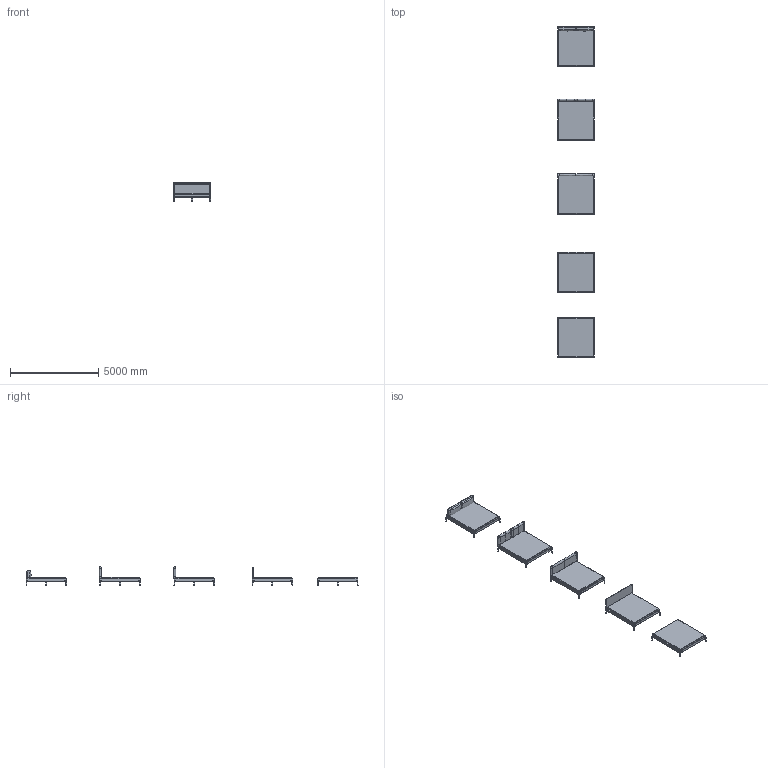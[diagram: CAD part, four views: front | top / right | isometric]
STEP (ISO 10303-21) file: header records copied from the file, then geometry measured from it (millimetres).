
FILE_DESCRIPTION(/* description */ (''),/* implementation_level */ '2;1');
FILE_NAME(/* name */ '200x220',/* time_stamp */ '2025-10-27T19:07:28+01:00',/* author */ (''),/* organization */ (''),/* preprocessor_version */ 'ST-DEVELOPER v16.5',/* originating_system */ 'Rhino 7.38',/* authorisation */ '');
FILE_SCHEMA (('CONFIG_CONTROL_DESIGN'));
Length unit declared in the file: millimetre
Products named in the file (1): Document
Bounding box: 2104.77 x 18827.24 x 1062.26 mm (x, y, z)
Volume: 5307761392.3 mm3; surface area: 84451728 mm2
Topology: 63 solids, 63 shells, 1053 faces, 2358 edges, 1410 vertices
Faces by surface type: plane 548, bspline 378, cylinder 127
Entity records: 148565 total; most frequent: CARTESIAN_POINT 132475, ORIENTED_EDGE 4644, EDGE_CURVE 2322, B_SPLINE_CURVE_WITH_KNOTS 1982, VERTEX_POINT 1410, EDGE_LOOP 1068, ADVANCED_FACE 1053, FACE_OUTER_BOUND 1053
